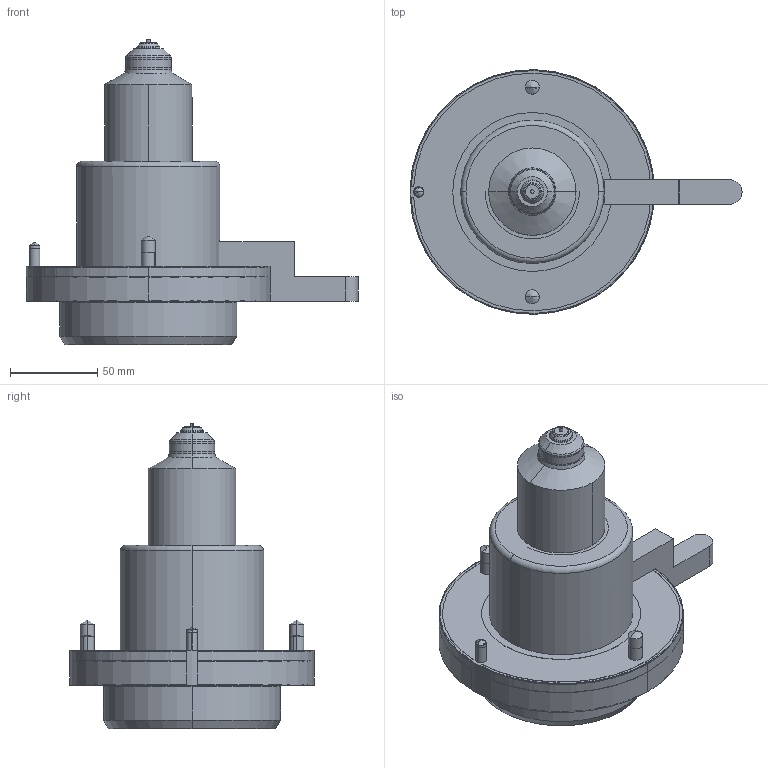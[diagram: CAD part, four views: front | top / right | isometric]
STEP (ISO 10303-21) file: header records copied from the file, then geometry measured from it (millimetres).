
FILE_DESCRIPTION (( 'STEP AP214' ), '1' );
FILE_NAME ('SB15_OPEN_A150.STEP', '2009-07-28T13:17:40', ( 'Synventive Molding Solutions' ), ( 'Synventive Molding Solutions' ), 'SwSTEP 2.0', 'SolidWorks 2008', '' );
FILE_SCHEMA (( 'AUTOMOTIVE_DESIGN' ));
Length unit declared in the file: millimetre
Products named in the file (1): SB15_OPEN_A150
Bounding box: 190 x 140 x 175 mm (x, y, z)
Volume: 1424747.4 mm3; surface area: 169023.1 mm2
Topology: 4 solids, 9 shells, 486 faces, 1162 edges, 715 vertices
Faces by surface type: cylinder 185, plane 158, cone 71, torus 64, sphere 6, bspline 2
Entity records: 20306 total; most frequent: CARTESIAN_POINT 3478, DIRECTION 2553, ORIENTED_EDGE 2288, EDGE_CURVE 1144, AXIS2_PLACEMENT_3D 1024, VERTEX_POINT 715, CIRCLE 539, EDGE_LOOP 537
